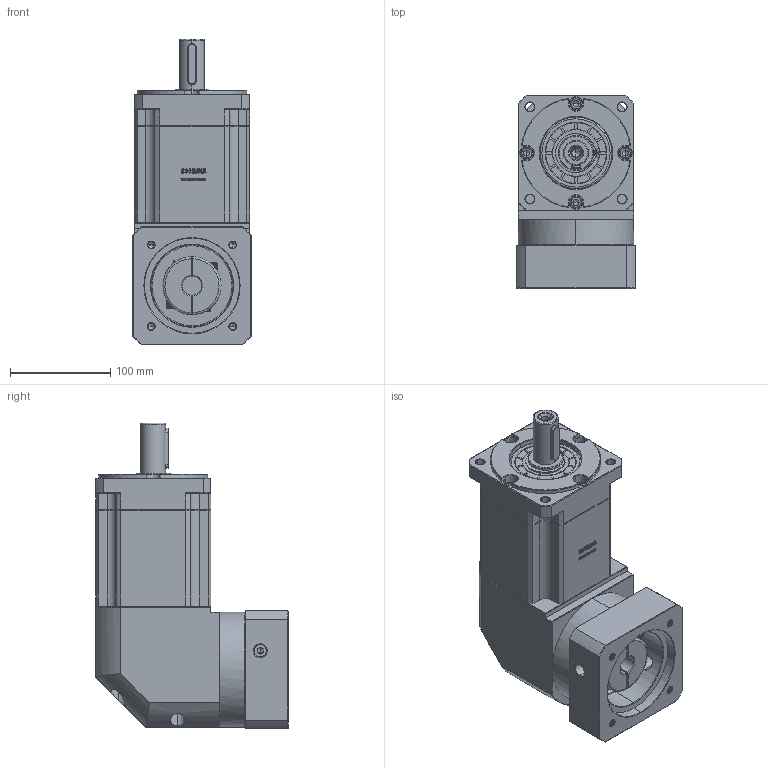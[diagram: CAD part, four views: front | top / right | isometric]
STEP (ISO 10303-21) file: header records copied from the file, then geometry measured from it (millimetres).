
FILE_DESCRIPTION (( 'STEP AP214' ), '1' );
FILE_NAME ('ZBR115A-D25-L3-19-95-115-M8.step', '2023-03-03T04:58:09', ( '' ), ( 'Microsoft' ), 'SwSTEP 2.0', 'SolidWorks 2016', '' );
FILE_SCHEMA (( 'AUTOMOTIVE_DESIGN' ));
Length unit declared in the file: millimetre
Products named in the file (1): ZBR115A-D25-L3-19-95-115-M8
Bounding box: 118 x 192.4 x 305 mm (x, y, z)
Volume: 3620373.2 mm3; surface area: 271076.2 mm2
Topology: 6 solids, 6 shells, 2980 faces, 7922 edges, 5088 vertices
Faces by surface type: plane 1559, bspline 606, cylinder 439, cone 368, torus 8
Entity records: 161765 total; most frequent: CARTESIAN_POINT 59755, ORIENTED_EDGE 15784, DIRECTION 11953, EDGE_CURVE 7892, VECTOR 5305, LINE 5305, VERTEX_POINT 5088, AXIS2_PLACEMENT_3D 3324
